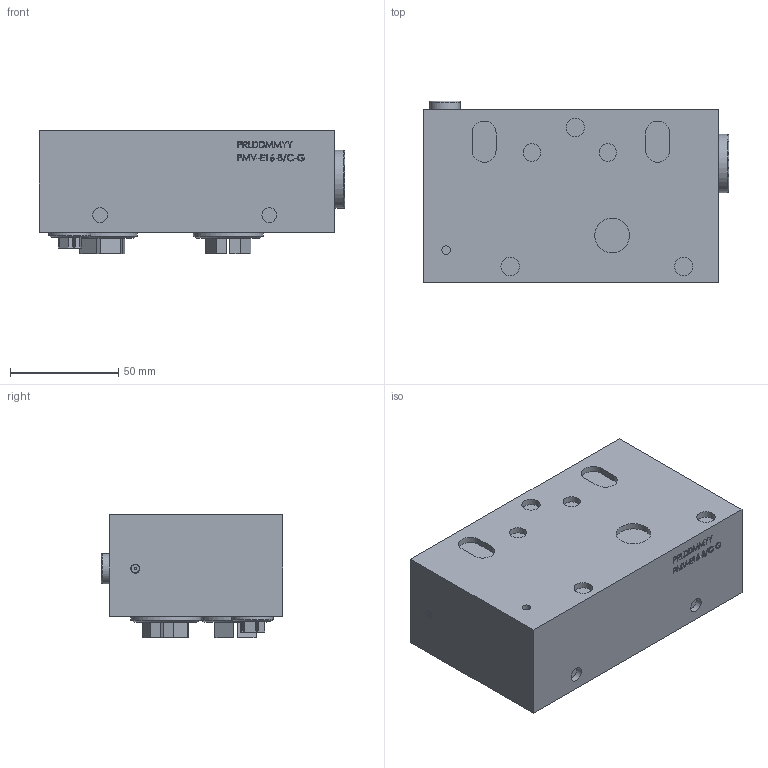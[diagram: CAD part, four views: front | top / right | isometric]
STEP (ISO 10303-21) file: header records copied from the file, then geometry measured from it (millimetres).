
FILE_DESCRIPTION (( 'STEP AP214' ), '1' );
FILE_NAME ('0302591.STEP', '2022-06-22T13:48:06', ( '' ), ( '' ), 'SwSTEP 2.0', 'SolidWorks 2020', '' );
FILE_SCHEMA (( 'AUTOMOTIVE_DESIGN' ));
Length unit declared in the file: millimetre
Products named in the file (7): 0072022_238.1405; 0166400_001; 0288317_002; 0072022_238.5405; 0302591; 0280258_001; 0283782_001
Assembly tree (7 placements, depth 2):
  0302591
    0288317_002
    0280258_001  x2
    0072022_238.1405
    0283782_001
    0072022_238.5405
    0166400_001
Bounding box: 140.7 x 83.7 x 56.7 mm (x, y, z)
Volume: 522501.7 mm3; surface area: 60273.5 mm2
Topology: 10 solids, 10 shells, 650 faces, 1543 edges, 1017 vertices
Faces by surface type: plane 425, cylinder 99, bspline 85, cone 39, torus 2
Full cylindrical faces by diameter (mm): 0.6 x1, 1.1 x1, 3.5 x1, 3.767 x1, 4 x2, 5 x1, 6.8 x3, 8 x2, 8.3 x1, 8.4 x1, 8.5 x6, 8.566 x1, 9.7 x1, 11.445 x1, 11.9 x1, 11.91 x1, 13.16 x1, 14 x1, 16 x1, 18 x1, 18.4 x1, 18.5 x1, 18.631 x1, 19.2 x1, 21 x1, 23.9 x1, 23.91 x1, 24 x1, 24.117 x2, 26.44 x2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
Entity records: 22394 total; most frequent: CARTESIAN_POINT 8397, ORIENTED_EDGE 2622, DIRECTION 2384, EDGE_CURVE 1311, VECTOR 928, LINE 928, VERTEX_POINT 913, EDGE_LOOP 770
